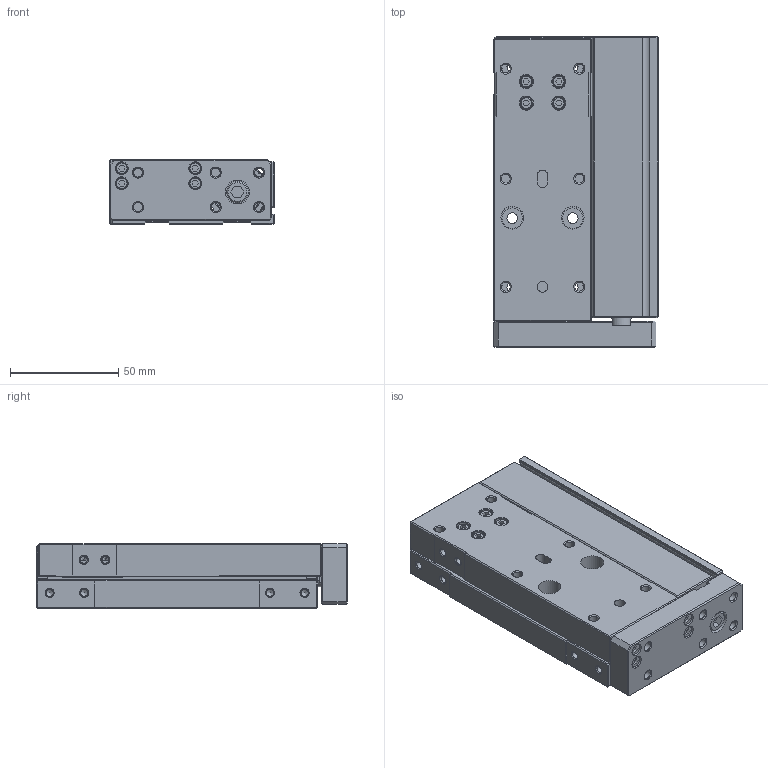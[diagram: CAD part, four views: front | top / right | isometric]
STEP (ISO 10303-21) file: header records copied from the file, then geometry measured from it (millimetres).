
FILE_DESCRIPTION((''),'2;1');
FILE_NAME('I:\3D電子目錄\氣缸\FMR(L)\FMR(L)\FMR20x75.stp','2007-10-15T16:05:17',('Administrator'),(''),'Autodesk Inventor 11','Autodesk Inventor 11','');
FILE_SCHEMA(('AUTOMOTIVE_DESIGN { 1 0 10303 214 1 1 1 1 }'));
Length unit declared in the file: millimetre
Products named in the file (1): FMR20x75
Bounding box: 76 x 143.8 x 30 mm (x, y, z)
Volume: 242912.3 mm3; surface area: 81320.7 mm2
Topology: 1 solids, 10 shells, 570 faces, 1332 edges, 840 vertices
Faces by surface type: plane 346, bspline 110, cylinder 68, cone 46
Full cylindrical faces by diameter (mm): 1 x2, 2 x2, 4.2 x1, 5 x3, 5.5 x8, 6 x1, 6.5 x1, 8 x2, 10 x4, 10.5 x2, 12 x1, 13 x1, 15 x1, 17.5 x2, 20 x3, 22 x4, 23.2 x2
Entity records: 16295 total; most frequent: CARTESIAN_POINT 4324, DIRECTION 2359, ORIENTED_EDGE 2228, EDGE_CURVE 1114, EDGE_LOOP 861, AXIS2_PLACEMENT_3D 806, VERTEX_POINT 785, VECTOR 747
